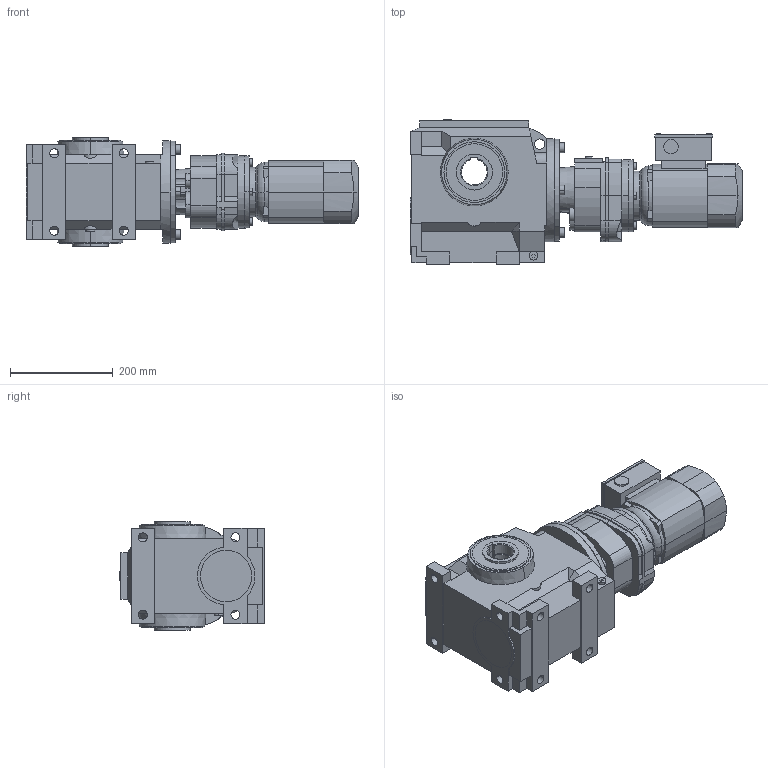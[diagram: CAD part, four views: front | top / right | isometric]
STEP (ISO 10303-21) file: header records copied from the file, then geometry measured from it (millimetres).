
FILE_DESCRIPTION(('STEP AP214'),'1');
FILE_NAME('STEP-File.stp','2018-01-01T00:00:00',(' '),('KEB'),' ','KEB-DRIVE',' ');
FILE_SCHEMA(('AUTOMOTIVE_DESIGN { 1 0 10303 214 1 1 1 1 }'));
Length unit declared in the file: millimetre
Products named in the file (12): s4a; we_hw_50; weh_slno; fp2-c4; g2b; ck2; dm71_kkn; kk08; PLUG_M25; ndm71; S42G22A DM71G4§CAD13
Assembly tree (11 placements, depth 2):
  S42G22A DM71G4§CAD13
    s4a
    we_hw_50
    weh_slno
    weh_slno
    fp2-c4
    g2b
    ck2
    dm71_kkn
    kk08
    PLUG_M25
    ndm71
Bounding box: 645.5 x 283 x 210 mm (x, y, z)
Volume: 16614658.4 mm3; surface area: 951762.5 mm2
Topology: 11 solids, 11 shells, 531 faces, 1456 edges, 1049 vertices
Faces by surface type: plane 330, cylinder 139, cone 58, torus 4
Entity records: 19121 total; most frequent: CARTESIAN_POINT 5785, ORIENTED_EDGE 2912, DIRECTION 2298, EDGE_CURVE 1456, VERTEX_POINT 1049, VECTOR 968, LINE 968, AXIS2_PLACEMENT_3D 665
